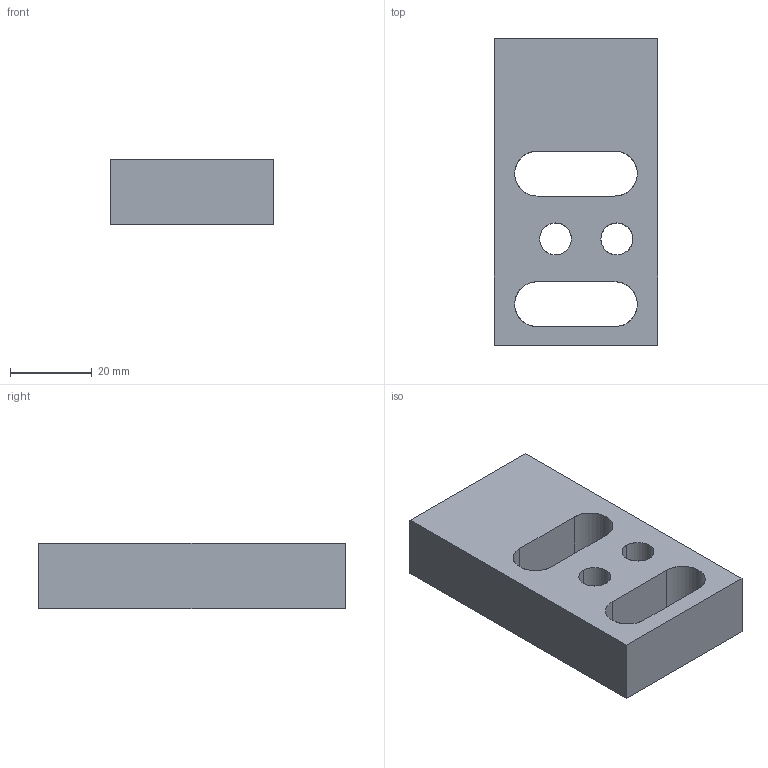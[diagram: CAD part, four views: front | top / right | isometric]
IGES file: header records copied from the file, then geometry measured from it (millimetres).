
Global section: file name: E:\UnigraphicsGraphicData\MISUMI_PRESS-PARTS\IGES\3d_teb16-11_01647_r00.igs; native system: NX V5.0; preprocessor: UGS NX IGES V5.0; author: MISUMI; date: 20110105.163419; units: millimetre
Bounding box: 40 x 75 x 16 mm (x, y, z)
Surface area: 11376.8 mm2 (no closed solid volume)
Topology: 0 solids, 0 shells, 18 faces, 144 edges, 144 vertices
Faces by surface type: bspline 18
